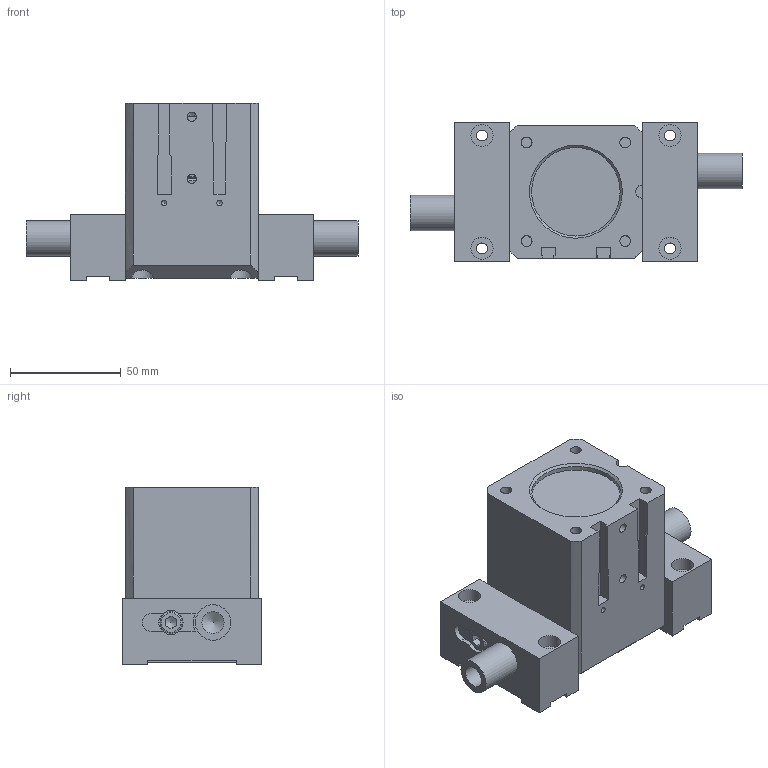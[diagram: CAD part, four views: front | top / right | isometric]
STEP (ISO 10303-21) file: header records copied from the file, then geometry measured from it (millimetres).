
FILE_DESCRIPTION((''),'2;1');
FILE_NAME('T:\CAD\Standard\Daten\3D-Datenbank\GP\4 - 3D-CAD-Daten GP 050-125\GP080\step-Daten\G-GP080-l2-GÖ+UB closed.stp','2013-11-07T10:36:29',('Dirk'),(''),'Autodesk Inventor 2011','Autodesk Inventor 2011','');
FILE_SCHEMA(('AUTOMOTIVE_DESIGN { 1 0 10303 214 1 1 1 1 }'));
Length unit declared in the file: millimetre
Products named in the file (1): Bauteil24
Bounding box: 150.01 x 63 x 80 mm (x, y, z)
Volume: 343785.3 mm3; surface area: 89535.7 mm2
Topology: 23 solids, 23 shells, 419 faces, 1049 edges, 677 vertices
Faces by surface type: plane 239, cylinder 118, cone 34, torus 27, bspline 1
Full cylindrical faces by diameter (mm): 2.459 x2, 4.134 x2, 4.917 x10, 6 x6, 6.5 x4, 6.6 x2, 8.376 x1, 10 x13, 10.5 x1, 11 x8, 16 x4, 18 x7, 20 x2, 24.4 x2, 26 x1, 35 x1, 36 x1, 40 x2, 40.2 x2, 47.1 x2, 50 x5
Entity records: 12787 total; most frequent: CARTESIAN_POINT 3006, DIRECTION 1925, ORIENTED_EDGE 1692, EDGE_CURVE 846, AXIS2_PLACEMENT_3D 733, EDGE_LOOP 627, VERTEX_POINT 610, VECTOR 459
